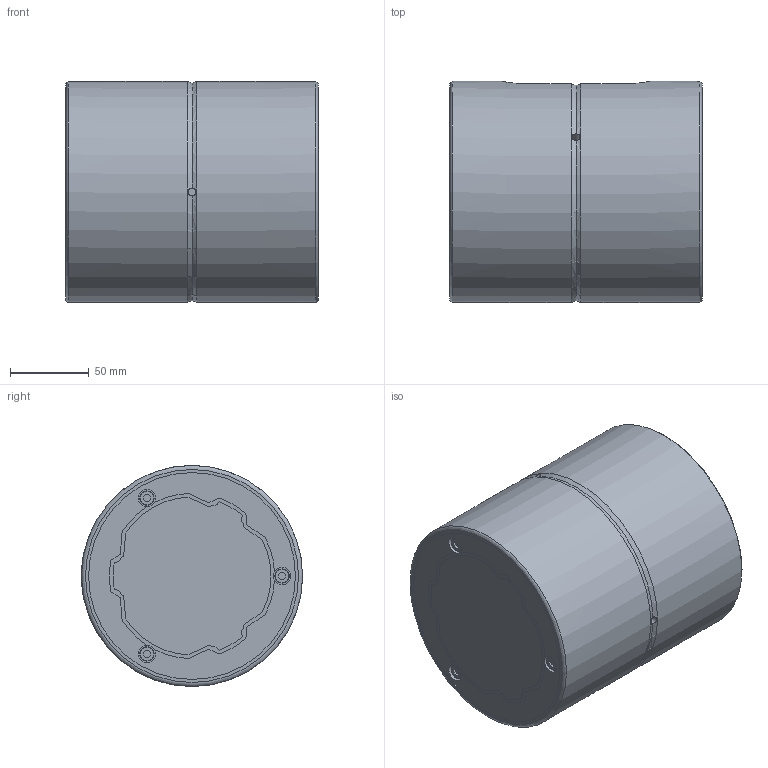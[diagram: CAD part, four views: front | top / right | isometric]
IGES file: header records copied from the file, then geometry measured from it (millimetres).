
Start section: Data from Parasolid IGES Translator 26.0.171, Copyright(c) 2006 Siemens PLM Software. All Rights Reserved.
Global section: file name: SLS1001160(00).igs; native system: By Siemens PLM Incorporated; preprocessor: XPlus GENERIC/IGES 26.0.171; author: Noname; organization: Noname; date: 20240523.114735; units: millimetre
Bounding box: 160 x 140 x 140 mm (x, y, z)
Surface area: 208273.7 mm2 (no closed solid volume)
Topology: 0 solids, 0 shells, 257 faces, 1394 edges, 1355 vertices
Faces by surface type: extrusion 140, revolution 117
